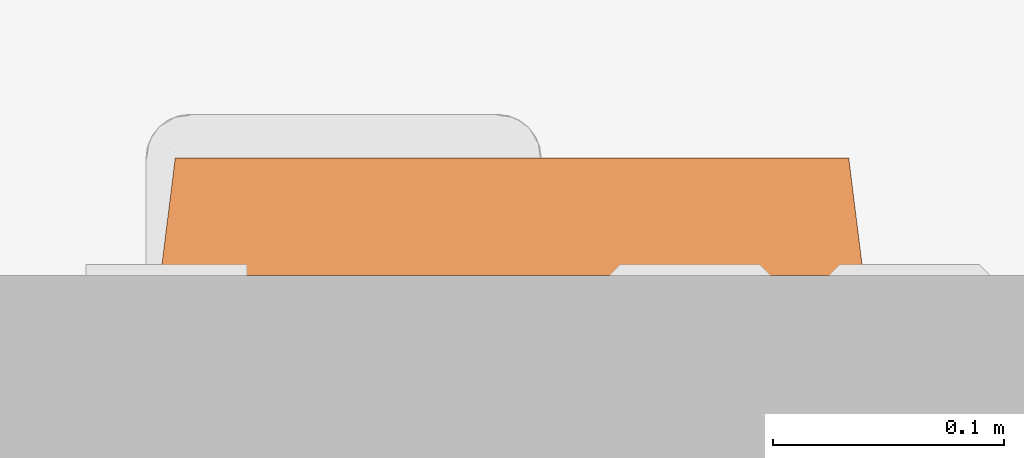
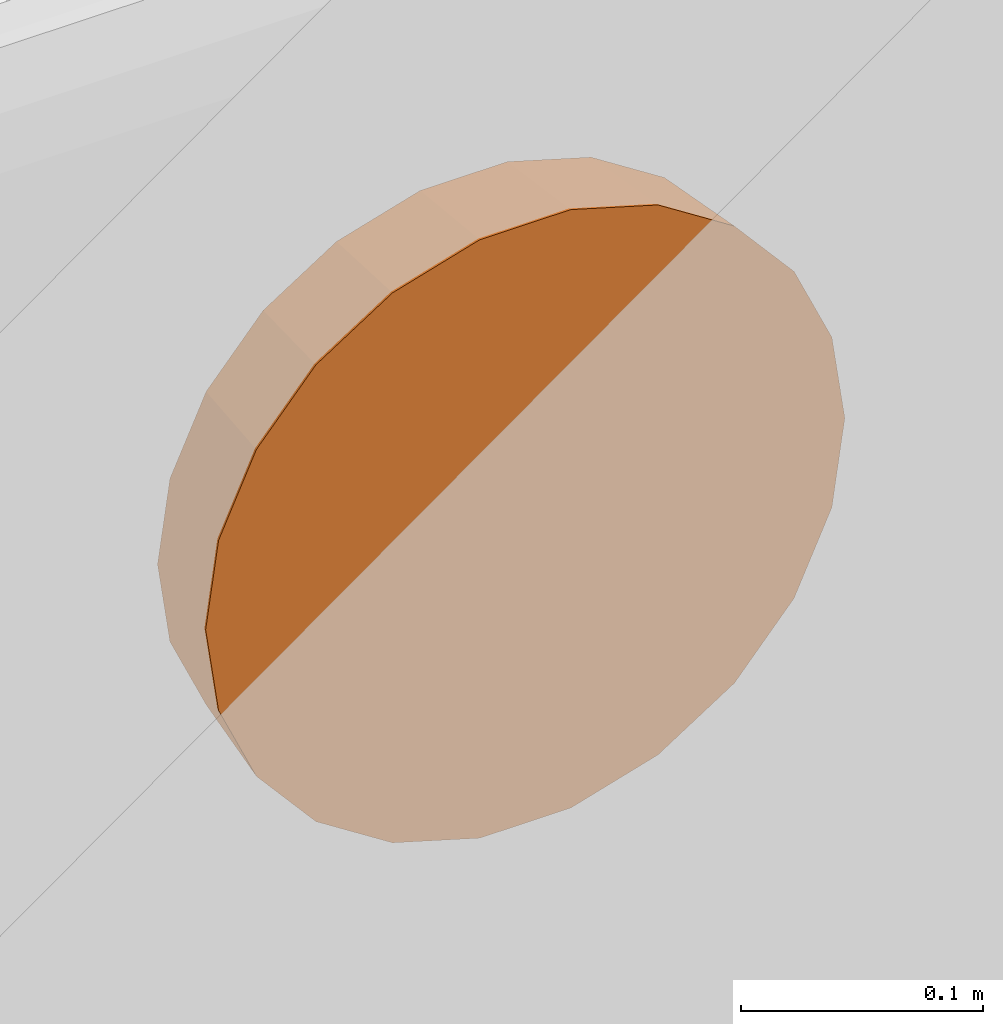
# One storey, part 9 of 11: 1 proxy.
"""IFC2X3 building model written with IfcOpenShell, lengths in feet."""

from ifc_helpers import new_model, entity, si_unit, converted_unit, derived_unit, direction, frame, origin, place, context, subcontext, project, spatial, faceted_brep, source, transform, mapped, material, type_object, type_shapes, element, save


model = new_model("IFC2X3")

# Units and contexts
model_context = context("Model", 3, precision=0.0001, world=origin(), true_north=direction((6.12303176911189e-17, 1.0)))
body_context = subcontext(model_context, "Body", "Model", "MODEL_VIEW")
ifc_project = project(units=[converted_unit("LENGTHUNIT", "FOOT", entity("IfcRatioMeasure", 0.3048), si_unit("LENGTHUNIT", "METRE"), dimensions=[1, 0, 0, 0, 0, 0, 0]), converted_unit("AREAUNIT", "SQUARE FOOT", entity("IfcRatioMeasure", 0.09290304), si_unit("AREAUNIT", "SQUARE_METRE"), dimensions=[2, 0, 0, 0, 0, 0, 0]), converted_unit("VOLUMEUNIT", "CUBIC FOOT", entity("IfcRatioMeasure", 0.028316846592), si_unit("VOLUMEUNIT", "CUBIC_METRE"), dimensions=[3, 0, 0, 0, 0, 0, 0]), converted_unit("PLANEANGLEUNIT", "DEGREE", entity("IfcRatioMeasure", 0.0174532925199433), si_unit("PLANEANGLEUNIT", "RADIAN"), dimensions=[0, 0, 0, 0, 0, 0, 0]), si_unit("MASSUNIT", "GRAM", prefix="KILO"), derived_unit("MASSDENSITYUNIT", [(si_unit("MASSUNIT", "GRAM", prefix="KILO"), 1), (si_unit("LENGTHUNIT", "METRE"), -3)]), si_unit("TIMEUNIT", "SECOND"), si_unit("FREQUENCYUNIT", "HERTZ"), si_unit("THERMODYNAMICTEMPERATUREUNIT", "DEGREE_CELSIUS"), derived_unit("THERMALTRANSMITTANCEUNIT", [(si_unit("MASSUNIT", "GRAM", prefix="KILO"), 1), (si_unit("THERMODYNAMICTEMPERATUREUNIT", "KELVIN"), -1), (si_unit("TIMEUNIT", "SECOND"), -3)]), derived_unit("VOLUMETRICFLOWRATEUNIT", [(si_unit("LENGTHUNIT", "METRE"), 3), (si_unit("TIMEUNIT", "SECOND"), -1)]), si_unit("ELECTRICCURRENTUNIT", "AMPERE"), si_unit("ELECTRICVOLTAGEUNIT", "VOLT"), si_unit("POWERUNIT", "WATT"), si_unit("FORCEUNIT", "NEWTON"), si_unit("ILLUMINANCEUNIT", "LUX"), si_unit("LUMINOUSFLUXUNIT", "LUMEN"), si_unit("LUMINOUSINTENSITYUNIT", "CANDELA"), derived_unit("USERDEFINED", [(si_unit("MASSUNIT", "GRAM", prefix="KILO"), -1), (si_unit("LENGTHUNIT", "METRE"), -2), (si_unit("TIMEUNIT", "SECOND"), 3), (si_unit("LUMINOUSFLUXUNIT", "LUMEN"), 1)]), derived_unit("LINEARVELOCITYUNIT", [(si_unit("LENGTHUNIT", "METRE"), 1), (si_unit("TIMEUNIT", "SECOND"), -1)]), si_unit("PRESSUREUNIT", "PASCAL"), derived_unit("USERDEFINED", [(si_unit("LENGTHUNIT", "METRE"), -2), (si_unit("MASSUNIT", "GRAM", prefix="KILO"), 1), (si_unit("TIMEUNIT", "SECOND"), -2)])], contexts=[model_context])

# Site, building, storey, space
site_placement = place(None, origin())
site = spatial("IfcSite", under=ifc_project, at=site_placement, Name="Default", CompositionType="ELEMENT")
building_placement = place(site_placement, origin())
building = spatial("IfcBuilding", under=site, at=building_placement, Name="EYE CLINIC:  OPTHALMOLOGY AND OPTOMETRY SERVICES (Ch. 233)", CompositionType="ELEMENT")
storey_placement = place(building_placement, origin())
storey = spatial("IfcBuildingStorey", under=building, at=storey_placement, Name="DATUM", CompositionType="ELEMENT", Elevation=0.0)
space_placement = place(storey_placement, origin())
space = spatial("IfcSpace", under=storey, at=space_placement, Name="(OPVF2)", CompositionType="ELEMENT", InteriorOrExteriorSpace="INTERNAL")

# Proxy
ifc_material = material(Name="WHITE")
building_element_proxy_type = type_object("IfcBuildingElementProxyType", Name="F3200 - Clock, Battery, 12in Dia", PredefinedType="NOTDEFINED", material=ifc_material)
shared_shape = source(origin(), body_context, "Body", "Brep", [
    faceted_brep([(0.218750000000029, 0.121113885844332, 0.16666666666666), (0.309359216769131, 0.190640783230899, 0.16666666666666), (0.3788861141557, 0.281250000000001, 0.16666666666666), (0.422592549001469, 0.386766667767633, 0.16666666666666), (0.437500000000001, 0.499999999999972, 0.16666666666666), (0.42259254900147, 0.613233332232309, 0.16666666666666), (0.378886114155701, 0.718749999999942, 0.16666666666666), (0.309359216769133, 0.809359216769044, 0.16666666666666), (0.218750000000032, 0.878886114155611, 0.16666666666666), (0.113233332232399, 0.922592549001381, 0.16666666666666), (0.0, 0.937499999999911, 0.16666666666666), (-0.113233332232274, 0.922592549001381, 0.16666666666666), (-0.218749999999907, 0.878886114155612, 0.16666666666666), (-0.309359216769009, 0.809359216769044, 0.16666666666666), (-0.378886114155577, 0.718749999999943, 0.16666666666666), (-0.422592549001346, 0.613233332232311, 0.16666666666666), (-0.437499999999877, 0.499999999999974, 0.16666666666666), (-0.422592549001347, 0.386766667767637, 0.16666666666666), (-0.378886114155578, 0.281250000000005, 0.16666666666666), (-0.309359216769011, 0.190640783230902, 0.16666666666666), (-0.218749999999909, 0.121113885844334, 0.16666666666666), (-0.113233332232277, 0.0774074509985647, 0.16666666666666), (0.0, 0.0625000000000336, 0.16666666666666), (0.113233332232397, 0.0774074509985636, 0.16666666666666), (0.42259254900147, 0.613233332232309, 0.145833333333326), (0.437500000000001, 0.49999999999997, 0.145833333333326), (0.422592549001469, 0.386766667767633, 0.145833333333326), (0.3788861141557, 0.281250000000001, 0.145833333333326), (0.309359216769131, 0.190640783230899, 0.145833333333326), (0.218750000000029, 0.121113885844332, 0.145833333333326), (0.113233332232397, 0.0774074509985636, 0.145833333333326), (0.0, 0.0625000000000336, 0.145833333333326), (-0.113233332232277, 0.0774074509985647, 0.145833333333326), (-0.218749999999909, 0.121113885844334, 0.145833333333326), (-0.309359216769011, 0.190640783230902, 0.145833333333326), (-0.378886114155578, 0.281250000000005, 0.145833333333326), (-0.422592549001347, 0.386766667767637, 0.145833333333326), (-0.437499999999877, 0.499999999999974, 0.145833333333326), (-0.422592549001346, 0.613233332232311, 0.145833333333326), (-0.378886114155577, 0.718749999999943, 0.145833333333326), (-0.309359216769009, 0.809359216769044, 0.145833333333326), (-0.218749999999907, 0.878886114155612, 0.145833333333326), (-0.113233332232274, 0.922592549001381, 0.145833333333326), (0.0, 0.937499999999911, 0.145833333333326), (0.113233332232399, 0.922592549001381, 0.145833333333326), (0.218750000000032, 0.878886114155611, 0.145833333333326), (0.309359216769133, 0.809359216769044, 0.145833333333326), (0.378886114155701, 0.718749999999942, 0.145833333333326)], [[[0, 1, 2, 3, 4, 5, 6, 7, 8, 9, 10, 11, 12, 13, 14, 15, 16, 17, 18, 19, 20, 21, 22, 23]], [[24, 25, 26, 27, 28, 29, 30, 31, 32, 33, 34, 35, 36, 37, 38, 39, 40, 41, 42, 43, 44, 45, 46, 47]], [[36, 17, 16, 37]], [[35, 18, 17, 36]], [[20, 19, 34, 33]], [[35, 34, 19, 18]], [[21, 20, 33, 32]], [[22, 21, 32, 31]], [[30, 23, 22, 31]], [[29, 0, 23, 30]], [[2, 1, 28, 27]], [[29, 28, 1, 0]], [[3, 2, 27, 26]], [[4, 3, 26, 25]], [[24, 5, 4, 25]], [[47, 6, 5, 24]], [[8, 7, 46, 45]], [[47, 46, 7, 6]], [[9, 8, 45, 44]], [[10, 9, 44, 43]], [[11, 10, 43, 42]], [[12, 11, 42, 41]], [[14, 39, 38, 15]], [[15, 38, 37, 16]], [[12, 41, 40, 13]], [[40, 39, 14, 13]]]),
    faceted_brep([(-0.327430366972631, 0.122125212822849, 0.0), (-0.420626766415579, 0.229679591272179, 0.0), (0.0, 0.499999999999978, 0.0), (-0.207707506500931, 0.045184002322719, 0.0), (-0.479746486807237, 0.359133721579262, 0.0), (-0.499999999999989, 0.499999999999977, 0.0), (-0.479746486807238, 0.640866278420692, 0.0), (-0.420626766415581, 0.770320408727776, 0.0), (-0.327430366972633, 0.877874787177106, 0.0), (-0.207707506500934, 0.954815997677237, 0.0), (-0.0711574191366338, 0.994910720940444, 0.0), (0.0711574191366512, 0.994910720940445, 0.0), (0.207707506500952, 0.954815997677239, 0.0), (0.327430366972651, 0.877874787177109, 0.0), (0.4206267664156, 0.77032040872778, 0.0), (0.479746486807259, 0.640866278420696, 0.0), (0.500000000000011, 0.499999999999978, 0.0), (0.47974648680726, 0.359133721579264, 0.0), (0.420626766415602, 0.22967959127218, 0.0), (0.327430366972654, 0.12212521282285, 0.0), (0.207707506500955, 0.0451840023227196, 0.0), (0.0711574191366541, 0.00508927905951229, 0.0), (-0.0711574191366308, 0.00508927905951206, 0.0), (0.0, 0.499999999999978, 0.145833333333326), (-0.368048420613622, 0.263469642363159, 0.145833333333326), (-0.286501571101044, 0.169359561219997, 0.145833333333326), (-0.419778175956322, 0.376742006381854, 0.145833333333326), (-0.181744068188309, 0.102036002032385, 0.145833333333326), (-0.0622627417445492, 0.0669531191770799, 0.145833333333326), (-0.437499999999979, 0.499999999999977, 0.145833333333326), (0.0622627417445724, 0.0669531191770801, 0.145833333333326), (0.181744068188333, 0.102036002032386, 0.145833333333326), (0.286501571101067, 0.169359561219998, 0.145833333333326), (0.368048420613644, 0.26346964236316, 0.145833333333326), (0.419778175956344, 0.376742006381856, 0.145833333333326), (0.437500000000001, 0.499999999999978, 0.145833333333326), (-0.419778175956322, 0.623257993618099, 0.145833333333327), (-0.368048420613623, 0.736530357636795, 0.145833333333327), (-0.286501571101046, 0.830640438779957, 0.145833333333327), (-0.181744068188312, 0.89796399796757, 0.145833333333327), (-0.0622627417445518, 0.933046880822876, 0.145833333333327), (0.419778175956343, 0.623257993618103, 0.145833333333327), (0.368048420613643, 0.736530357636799, 0.145833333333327), (0.286501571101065, 0.83064043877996, 0.145833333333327), (0.18174406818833, 0.897963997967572, 0.145833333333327), (0.0622627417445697, 0.933046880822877, 0.145833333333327), (0.419778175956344, 0.376742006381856, 0.16666666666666), (0.437500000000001, 0.499999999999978, 0.16666666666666), (0.368048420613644, 0.26346964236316, 0.16666666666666), (0.0622627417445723, 0.0669531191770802, 0.166666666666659), (0.181744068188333, 0.102036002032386, 0.166666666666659), (0.286501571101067, 0.169359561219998, 0.166666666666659), (-0.0622627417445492, 0.06695311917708, 0.166666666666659), (-0.286501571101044, 0.169359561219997, 0.166666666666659), (-0.18174406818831, 0.102036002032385, 0.166666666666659), (-0.437499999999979, 0.499999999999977, 0.16666666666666), (-0.419778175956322, 0.376742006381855, 0.16666666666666), (-0.368048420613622, 0.263469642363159, 0.16666666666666), (-0.419778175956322, 0.623257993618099, 0.16666666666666), (-0.368048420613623, 0.736530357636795, 0.16666666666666), (-0.181744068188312, 0.89796399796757, 0.166666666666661), (-0.286501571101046, 0.830640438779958, 0.166666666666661), (-0.0622627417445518, 0.933046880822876, 0.166666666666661), (0.0622627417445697, 0.933046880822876, 0.166666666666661), (0.18174406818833, 0.897963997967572, 0.166666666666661), (0.286501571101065, 0.83064043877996, 0.166666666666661), (0.419778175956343, 0.623257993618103, 0.16666666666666), (0.368048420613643, 0.736530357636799, 0.16666666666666), (-0.459757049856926, 0.365003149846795, 0.16666666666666), (-0.479166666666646, 0.499999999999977, 0.16666666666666), (-0.403100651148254, 0.240942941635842, 0.16666666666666), (-0.313787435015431, 0.137869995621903, 0.166666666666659), (-0.199053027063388, 0.0641346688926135, 0.166666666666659), (-0.0681925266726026, 0.0257105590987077, 0.166666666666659), (0.068192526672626, 0.0257105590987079, 0.166666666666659), (0.199053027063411, 0.0641346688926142, 0.166666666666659), (0.313787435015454, 0.137869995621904, 0.166666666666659), (0.403100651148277, 0.240942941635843, 0.16666666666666), (0.459757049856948, 0.365003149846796, 0.16666666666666), (0.479166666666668, 0.499999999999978, 0.16666666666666), (0.459757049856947, 0.634996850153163, 0.16666666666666), (0.403100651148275, 0.759057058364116, 0.16666666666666), (0.313787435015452, 0.862130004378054, 0.166666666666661), (0.199053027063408, 0.935865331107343, 0.166666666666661), (0.068192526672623, 0.974289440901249, 0.166666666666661), (-0.0681925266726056, 0.974289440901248, 0.166666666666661), (-0.199053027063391, 0.935865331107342, 0.166666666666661), (-0.313787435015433, 0.862130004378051, 0.166666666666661), (-0.403100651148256, 0.759057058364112, 0.16666666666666), (-0.459757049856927, 0.634996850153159, 0.16666666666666)], [[[0, 1, 2]], [[0, 2, 3]], [[4, 2, 1]], [[2, 4, 5]], [[5, 6, 2]], [[2, 6, 7]], [[2, 7, 8]], [[2, 8, 9]], [[9, 10, 2]], [[11, 2, 10]], [[2, 11, 12]], [[2, 12, 13]], [[14, 2, 13]], [[2, 14, 15]], [[15, 16, 2]], [[2, 16, 17]], [[2, 17, 18]], [[18, 19, 2]], [[19, 20, 2]], [[21, 2, 20]], [[2, 21, 22]], [[22, 3, 2]], [[23, 24, 25]], [[24, 23, 26]], [[27, 23, 25]], [[23, 27, 28]], [[29, 26, 23]], [[28, 30, 23]], [[31, 23, 30]], [[23, 31, 32]], [[23, 32, 33]], [[33, 34, 23]], [[34, 35, 23]], [[23, 36, 29]], [[37, 36, 23]], [[38, 37, 23]], [[39, 38, 23]], [[23, 40, 39]], [[23, 35, 41]], [[41, 42, 23]], [[43, 23, 42]], [[43, 44, 23]], [[44, 45, 23]], [[40, 23, 45]], [[46, 47, 35, 34]], [[46, 34, 33, 48]], [[31, 30, 49, 50]], [[32, 31, 50, 51]], [[51, 48, 33, 32]], [[30, 28, 52, 49]], [[27, 25, 53, 54]], [[28, 27, 54, 52]], [[29, 55, 56, 26]], [[26, 56, 57, 24]], [[24, 57, 53, 25]], [[55, 29, 36, 58]], [[58, 36, 37, 59]], [[60, 61, 38, 39]], [[59, 37, 38, 61]], [[39, 40, 62, 60]], [[40, 45, 63, 62]], [[64, 63, 45, 44]], [[64, 44, 43, 65]], [[41, 35, 47, 66]], [[42, 41, 66, 67]], [[67, 65, 43, 42]], [[68, 55, 69]], [[56, 55, 68]], [[68, 70, 56]], [[70, 57, 56]], [[71, 57, 70]], [[57, 71, 53]], [[72, 53, 71]], [[54, 53, 72]], [[72, 73, 54]], [[73, 52, 54]], [[49, 52, 73]], [[73, 74, 49]], [[74, 50, 49]], [[75, 50, 74]], [[50, 75, 51]], [[76, 51, 75]], [[48, 51, 76]], [[76, 77, 48]], [[77, 46, 48]], [[78, 46, 77]], [[46, 78, 47]], [[78, 79, 47]], [[79, 80, 47]], [[66, 47, 80]], [[80, 81, 66]], [[66, 81, 67]], [[82, 67, 81]], [[67, 82, 65]], [[65, 82, 83]], [[64, 65, 83]], [[83, 84, 64]], [[64, 84, 63]], [[85, 63, 84]], [[63, 85, 62]], [[62, 85, 60]], [[86, 60, 85]], [[60, 86, 61]], [[61, 86, 87]], [[59, 61, 87]], [[87, 88, 59]], [[59, 88, 58]], [[89, 58, 88]], [[55, 89, 69]], [[58, 89, 55]], [[78, 17, 16, 79]], [[77, 18, 17, 78]], [[19, 76, 75, 20]], [[77, 76, 19, 18]], [[20, 75, 74, 21]], [[74, 73, 22, 21]], [[22, 73, 72, 3]], [[0, 3, 72, 71]], [[4, 1, 70, 68]], [[70, 1, 0, 71]], [[5, 4, 68, 69]], [[89, 6, 5, 69]], [[88, 7, 6, 89]], [[8, 87, 86, 9]], [[88, 87, 8, 7]], [[9, 86, 85, 10]], [[85, 84, 11, 10]], [[83, 12, 11, 84]], [[82, 13, 12, 83]], [[14, 81, 80, 15]], [[82, 81, 14, 13]], [[15, 80, 79, 16]]]),
])
type_shapes(building_element_proxy_type, [shared_shape])
proxy_placement = place(space_placement, frame((194.631398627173, 16.510750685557, 6.50000000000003), z_axis=(0.0, 1.0, 0.0), x_axis=(-1.0, 0.0, 0.0)))
element("IfcBuildingElementProxy", 1, at=proxy_placement, inside=space, type_object=building_element_proxy_type, material=ifc_material, Name="F3200 - Clock, Battery, 12in Dia:F3200 - Clock, Battery, 12in Dia", ObjectType="F3200 - Clock, Battery, 12in Dia", context=body_context, shape_type="MappedRepresentation", body=[
    mapped(shared_shape, transform((0.0, 0.0, 0.0), scale=1.0)),
])

save(model, "model.ifc")
